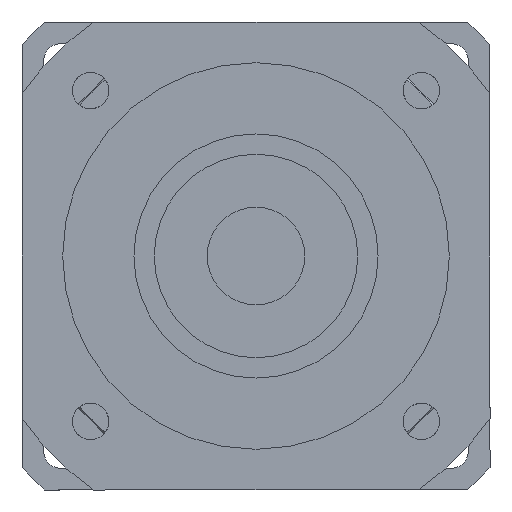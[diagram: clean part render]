
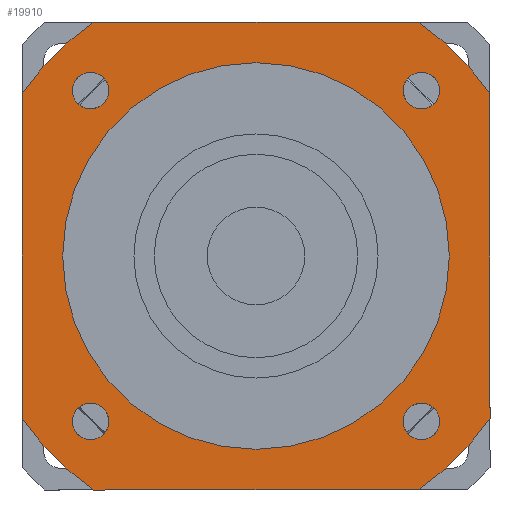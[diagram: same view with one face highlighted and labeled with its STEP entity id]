
A CAD part, left-side view. The second image highlights one B-rep face of the part: STEP entity #19910.
In plain terms, the highlighted planar face has unit normal (-1, 0, 0) as drawn and (0, 0, -1) by its records, which use the part's own axes.
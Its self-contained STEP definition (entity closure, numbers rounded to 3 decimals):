
#17980=CARTESIAN_POINT('',(-40.659,36.159,-120.));
#17990=VERTEX_POINT('',#17980);
#18160=CARTESIAN_POINT('',(-40.659,45.159,-120.));
#18170=VERTEX_POINT('',#18160);
#18200=CARTESIAN_POINT('',(-40.659,40.659,-120.));
#18210=DIRECTION('',(0.,0.,-1.));
#18220=DIRECTION('',(-1.,0.,0.));
#18230=AXIS2_PLACEMENT_3D('',#18200,#18210,#18220);
#18240=CIRCLE('',#18230,4.5);
#18250=CARTESIAN_POINT('',(-45.159,40.659,-120.));
#18260=VERTEX_POINT('',#18250);
#18270=EDGE_CURVE('',#18260,#18170,#18240,.T.);
#18290=EDGE_CURVE('',#17990,#18260,#18240,.T.);
#18340=CARTESIAN_POINT('',(-57.5,57.5,-120.));
#18350=DIRECTION('',(0.,0.,1.));
#18360=DIRECTION('',(-1.,0.,0.));
#18370=AXIS2_PLACEMENT_3D('',#18340,#18350,#18360);
#18380=PLANE('',#18370);
#18390=CARTESIAN_POINT('',(40.659,-40.659,-120.));
#18400=DIRECTION('',(0.,0.,-1.));
#18410=DIRECTION('',(1.,0.,0.));
#18420=AXIS2_PLACEMENT_3D('',#18390,#18400,#18410);
#18430=CIRCLE('',#18420,4.5);
#18440=CARTESIAN_POINT('',(45.159,-40.659,-120.));
#18450=VERTEX_POINT('',#18440);
#18460=CARTESIAN_POINT('',(40.659,-45.159,-120.));
#18470=VERTEX_POINT('',#18460);
#18480=EDGE_CURVE('',#18450,#18470,#18430,.T.);
#18490=ORIENTED_EDGE('',*,*,#18480,.F.);
#18500=CARTESIAN_POINT('',(40.659,-36.159,-120.));
#18510=VERTEX_POINT('',#18500);
#18520=EDGE_CURVE('',#18470,#18510,#18430,.T.);
#18530=ORIENTED_EDGE('',*,*,#18520,.F.);
#18540=EDGE_CURVE('',#18510,#18450,#18430,.T.);
#18550=ORIENTED_EDGE('',*,*,#18540,.F.);
#18560=EDGE_LOOP('',(#18550,#18530,#18490));
#18570=FACE_BOUND('',#18560,.T.);
#18580=CARTESIAN_POINT('',(40.659,40.659,-120.));
#18590=DIRECTION('',(0.,0.,-1.));
#18600=DIRECTION('',(0.,1.,0.));
#18610=AXIS2_PLACEMENT_3D('',#18580,#18590,#18600);
#18620=CIRCLE('',#18610,4.5);
#18630=CARTESIAN_POINT('',(40.659,45.159,-120.));
#18640=VERTEX_POINT('',#18630);
#18650=CARTESIAN_POINT('',(45.159,40.659,-120.));
#18660=VERTEX_POINT('',#18650);
#18670=EDGE_CURVE('',#18640,#18660,#18620,.T.);
#18680=ORIENTED_EDGE('',*,*,#18670,.F.);
#18690=CARTESIAN_POINT('',(36.159,40.659,-120.));
#18700=VERTEX_POINT('',#18690);
#18710=EDGE_CURVE('',#18660,#18700,#18620,.T.);
#18720=ORIENTED_EDGE('',*,*,#18710,.F.);
#18730=EDGE_CURVE('',#18700,#18640,#18620,.T.);
#18740=ORIENTED_EDGE('',*,*,#18730,.F.);
#18750=EDGE_LOOP('',(#18740,#18720,#18680));
#18760=FACE_BOUND('',#18750,.T.);
#18770=ORIENTED_EDGE('',*,*,#18270,.F.);
#18780=EDGE_CURVE('',#18170,#17990,#18240,.T.);
#18790=ORIENTED_EDGE('',*,*,#18780,.F.);
#18800=ORIENTED_EDGE('',*,*,#18290,.F.);
#18810=EDGE_LOOP('',(#18800,#18790,#18770));
#18820=FACE_BOUND('',#18810,.T.);
#18830=CARTESIAN_POINT('',(-40.659,-40.659,-120.));
#18840=DIRECTION('',(0.,0.,-1.));
#18850=DIRECTION('',(0.,-1.,0.));
#18860=AXIS2_PLACEMENT_3D('',#18830,#18840,#18850);
#18870=CIRCLE('',#18860,4.5);
#18880=CARTESIAN_POINT('',(-40.659,-45.159,-120.));
#18890=VERTEX_POINT('',#18880);
#18900=CARTESIAN_POINT('',(-45.159,-40.659,-120.));
#18910=VERTEX_POINT('',#18900);
#18920=EDGE_CURVE('',#18890,#18910,#18870,.T.);
#18930=ORIENTED_EDGE('',*,*,#18920,.F.);
#18940=CARTESIAN_POINT('',(-36.159,-40.659,-120.));
#18950=VERTEX_POINT('',#18940);
#18960=EDGE_CURVE('',#18910,#18950,#18870,.T.);
#18970=ORIENTED_EDGE('',*,*,#18960,.F.);
#18980=EDGE_CURVE('',#18950,#18890,#18870,.T.);
#18990=ORIENTED_EDGE('',*,*,#18980,.F.);
#19000=EDGE_LOOP('',(#18990,#18970,#18930));
#19010=FACE_BOUND('',#19000,.T.);
#19020=CARTESIAN_POINT('',(0.,0.,
-120.));
#19030=DIRECTION('',(0.,0.,1.));
#19040=DIRECTION('',(0.,-1.,0.));
#19050=AXIS2_PLACEMENT_3D('',#19020,#19030,#19040);
#19060=CIRCLE('',#19050,70.);
#19070=CARTESIAN_POINT('',(-57.5,-39.922,-120.));
#19080=VERTEX_POINT('',#19070);
#19090=CARTESIAN_POINT('',(-39.922,-57.5,-120.));
#19100=VERTEX_POINT('',#19090);
#19110=EDGE_CURVE('',#19080,#19100,#19060,.T.);
#19120=ORIENTED_EDGE('',*,*,#19110,.F.);
#19130=CARTESIAN_POINT('',(-57.5,-57.5,-120.));
#19140=DIRECTION('',(1.,0.,0.));
#19150=VECTOR('',#19140,1000.);
#19160=LINE('',#19130,#19150);
#19170=CARTESIAN_POINT('',(39.922,-57.5,-120.));
#19180=VERTEX_POINT('',#19170);
#19190=EDGE_CURVE('',#19100,#19180,#19160,.T.);
#19200=ORIENTED_EDGE('',*,*,#19190,.F.);
#19210=CARTESIAN_POINT('',(0.,0.,
-120.));
#19220=DIRECTION('',(0.,0.,1.));
#19230=DIRECTION('',(0.,-1.,0.));
#19240=AXIS2_PLACEMENT_3D('',#19210,#19220,#19230);
#19250=CIRCLE('',#19240,70.);
#19260=CARTESIAN_POINT('',(57.5,-39.922,-120.));
#19270=VERTEX_POINT('',#19260);
#19280=EDGE_CURVE('',#19180,#19270,#19250,.T.);
#19290=ORIENTED_EDGE('',*,*,#19280,.F.);
#19300=CARTESIAN_POINT('',(57.5,-57.5,-120.));
#19310=DIRECTION('',(0.,1.,0.));
#19320=VECTOR('',#19310,1000.);
#19330=LINE('',#19300,#19320);
#19340=CARTESIAN_POINT('',(57.5,39.922,-120.));
#19350=VERTEX_POINT('',#19340);
#19360=EDGE_CURVE('',#19270,#19350,#19330,.T.);
#19370=ORIENTED_EDGE('',*,*,#19360,.F.);
#19380=CARTESIAN_POINT('',(0.,0.,
-120.));
#19390=DIRECTION('',(0.,0.,1.));
#19400=DIRECTION('',(0.,-1.,0.));
#19410=AXIS2_PLACEMENT_3D('',#19380,#19390,#19400);
#19420=CIRCLE('',#19410,70.);
#19430=CARTESIAN_POINT('',(39.922,57.5,-120.));
#19440=VERTEX_POINT('',#19430);
#19450=EDGE_CURVE('',#19350,#19440,#19420,.T.);
#19460=ORIENTED_EDGE('',*,*,#19450,.F.);
#19470=CARTESIAN_POINT('',(57.5,57.5,-120.));
#19480=DIRECTION('',(-1.,0.,0.));
#19490=VECTOR('',#19480,1000.);
#19500=LINE('',#19470,#19490);
#19510=CARTESIAN_POINT('',(-39.922,57.5,-120.));
#19520=VERTEX_POINT('',#19510);
#19530=EDGE_CURVE('',#19440,#19520,#19500,.T.);
#19540=ORIENTED_EDGE('',*,*,#19530,.F.);
#19550=CARTESIAN_POINT('',(0.,0.,
-120.));
#19560=DIRECTION('',(0.,0.,1.));
#19570=DIRECTION('',(0.,-1.,0.));
#19580=AXIS2_PLACEMENT_3D('',#19550,#19560,#19570);
#19590=CIRCLE('',#19580,70.);
#19600=CARTESIAN_POINT('',(-57.5,39.922,-120.));
#19610=VERTEX_POINT('',#19600);
#19620=EDGE_CURVE('',#19520,#19610,#19590,.T.);
#19630=ORIENTED_EDGE('',*,*,#19620,.F.);
#19640=CARTESIAN_POINT('',(-57.5,57.5,-120.));
#19650=DIRECTION('',(0.,-1.,0.));
#19660=VECTOR('',#19650,1000.);
#19670=LINE('',#19640,#19660);
#19680=EDGE_CURVE('',#19610,#19080,#19670,.T.);
#19690=ORIENTED_EDGE('',*,*,#19680,.F.);
#19700=EDGE_LOOP('',(#19690,#19630,#19540,#19460,#19370,#19290,#19200,
#19120));
#19710=FACE_OUTER_BOUND('',#19700,.T.);
#19720=CARTESIAN_POINT('',(0.,0.,
-120.));
#19730=DIRECTION('',(0.,0.,1.));
#19740=DIRECTION('',(0.,-1.,0.));
#19750=AXIS2_PLACEMENT_3D('',#19720,#19730,#19740);
#19760=CIRCLE('',#19750,47.5);
#19770=CARTESIAN_POINT('',(47.5,0.,-120.));
#19780=VERTEX_POINT('',#19770);
#19790=CARTESIAN_POINT('',(-47.5,0.,-120.));
#19800=VERTEX_POINT('',#19790);
#19810=EDGE_CURVE('',#19780,#19800,#19760,.T.);
#19820=ORIENTED_EDGE('',*,*,#19810,.T.);
#19830=CARTESIAN_POINT('',(0.,-47.5,-120.));
#19840=VERTEX_POINT('',#19830);
#19850=EDGE_CURVE('',#19840,#19780,#19760,.T.);
#19860=ORIENTED_EDGE('',*,*,#19850,.T.);
#19870=EDGE_CURVE('',#19800,#19840,#19760,.T.);
#19880=ORIENTED_EDGE('',*,*,#19870,.T.);
#19890=EDGE_LOOP('',(#19880,#19860,#19820));
#19900=FACE_BOUND('',#19890,.T.);
#19910=ADVANCED_FACE('',(#18570,#18760,#18820,#19010,#19710,#19900),
#18380,.F.);
